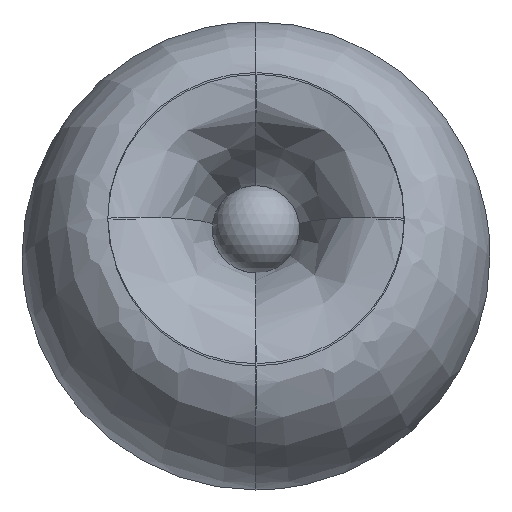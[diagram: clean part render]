
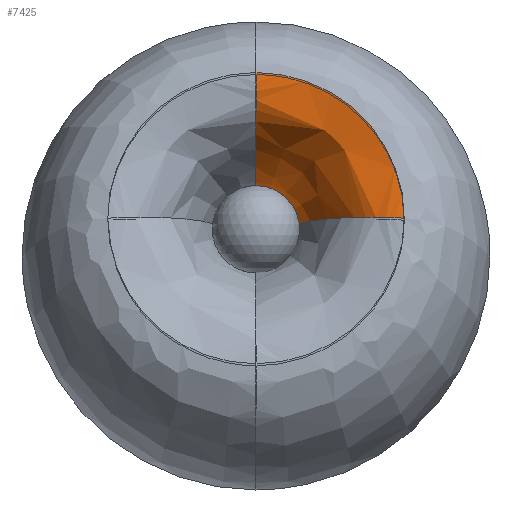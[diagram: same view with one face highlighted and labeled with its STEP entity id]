
A CAD part, front view. The second image highlights one B-rep face of the part: STEP entity #7425.
In plain terms, the highlighted free-form (B-spline) face has degree [2, 3] with [3, 4] control points.
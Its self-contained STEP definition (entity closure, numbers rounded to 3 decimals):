
#332=(
BOUNDED_SURFACE()
B_SPLINE_SURFACE(2,3,((#16570,#16571,#16572,#16573),(#16574,#16575,#16576,
#16577),(#16578,#16579,#16580,#16581)),.UNSPECIFIED.,.F.,.F.,.F.)
B_SPLINE_SURFACE_WITH_KNOTS((3,3),(4,4),(0.,39.27),(0.,197.71),
 .UNSPECIFIED.)
GEOMETRIC_REPRESENTATION_ITEM()
RATIONAL_B_SPLINE_SURFACE(((1.,1.,1.,1.),(0.707,0.707,
0.707,0.707),(1.,1.,1.,1.)))
REPRESENTATION_ITEM('')
SURFACE()
);
#508=CIRCLE('',#8259,25.);
#511=CIRCLE('',#8265,110.882);
#1090=FACE_OUTER_BOUND('',#1532,.T.);
#1532=EDGE_LOOP('',(#5220,#5221,#5222,#5223));
#2038=B_SPLINE_CURVE_WITH_KNOTS('',3,(#16583,#16584,#16585,#16586),
 .UNSPECIFIED.,.F.,.F.,(4,4),(0.,197.71),.UNSPECIFIED.);
#2039=B_SPLINE_CURVE_WITH_KNOTS('',3,(#16589,#16590,#16591,#16592),
 .UNSPECIFIED.,.F.,.F.,(4,4),(0.,197.71),.UNSPECIFIED.);
#3344=VERTEX_POINT('',#16474);
#3345=VERTEX_POINT('',#16476);
#3350=VERTEX_POINT('',#16582);
#3351=VERTEX_POINT('',#16587);
#4074=EDGE_CURVE('',#3345,#3344,#508,.T.);
#4081=EDGE_CURVE('',#3344,#3350,#2038,.T.);
#4082=EDGE_CURVE('',#3350,#3351,#511,.T.);
#4083=EDGE_CURVE('',#3345,#3351,#2039,.T.);
#5220=ORIENTED_EDGE('',*,*,#4081,.T.);
#5221=ORIENTED_EDGE('',*,*,#4082,.T.);
#5222=ORIENTED_EDGE('',*,*,#4083,.F.);
#5223=ORIENTED_EDGE('',*,*,#4074,.T.);
#7425=ADVANCED_FACE('',(#1090),#332,.T.);
#8259=AXIS2_PLACEMENT_3D('',#16477,#9063,#9064);
#8265=AXIS2_PLACEMENT_3D('',#16588,#9075,#9076);
#9063=DIRECTION('center_axis',(0.,0.,1.));
#9064=DIRECTION('ref_axis',(0.,1.,0.));
#9075=DIRECTION('center_axis',(0.189,0.,
-0.982));
#9076=DIRECTION('ref_axis',(0.982,0.,0.189));
#16474=CARTESIAN_POINT('',(0.,25.,-25.));
#16476=CARTESIAN_POINT('',(25.,0.,-25.));
#16477=CARTESIAN_POINT('Origin',(0.,0.,
-25.));
#16570=CARTESIAN_POINT('Ctrl Pts',(25.,0.,
-25.));
#16571=CARTESIAN_POINT('Ctrl Pts',(25.,0.,
-81.11));
#16572=CARTESIAN_POINT('Ctrl Pts',(62.11,0.,
-176.422));
#16573=CARTESIAN_POINT('Ctrl Pts',(117.211,0.,
-165.827));
#16574=CARTESIAN_POINT('Ctrl Pts',(25.,25.,-25.));
#16575=CARTESIAN_POINT('Ctrl Pts',(27.077,20.193,-80.977));
#16576=CARTESIAN_POINT('Ctrl Pts',(60.598,53.225,-176.636));
#16577=CARTESIAN_POINT('Ctrl Pts',(117.211,110.882,-165.827));
#16578=CARTESIAN_POINT('Ctrl Pts',(0.,25.,-25.));
#16579=CARTESIAN_POINT('Ctrl Pts',(4.508,25.125,-85.676));
#16580=CARTESIAN_POINT('Ctrl Pts',(10.943,50.109,-186.694));
#16581=CARTESIAN_POINT('Ctrl Pts',(8.323,110.882,-186.763));
#16582=CARTESIAN_POINT('',(8.323,110.882,-186.763));
#16583=CARTESIAN_POINT('Ctrl Pts',(0.,25.,-25.));
#16584=CARTESIAN_POINT('Ctrl Pts',(4.508,25.125,-85.676));
#16585=CARTESIAN_POINT('Ctrl Pts',(10.943,50.109,-186.694));
#16586=CARTESIAN_POINT('Ctrl Pts',(8.323,110.882,-186.763));
#16587=CARTESIAN_POINT('',(117.211,0.,-165.827));
#16588=CARTESIAN_POINT('Origin',(8.323,0.,
-186.763));
#16589=CARTESIAN_POINT('Ctrl Pts',(25.,0.,
-25.));
#16590=CARTESIAN_POINT('Ctrl Pts',(25.,0.,
-81.11));
#16591=CARTESIAN_POINT('Ctrl Pts',(62.11,0.,
-176.422));
#16592=CARTESIAN_POINT('Ctrl Pts',(117.211,0.,
-165.827));
